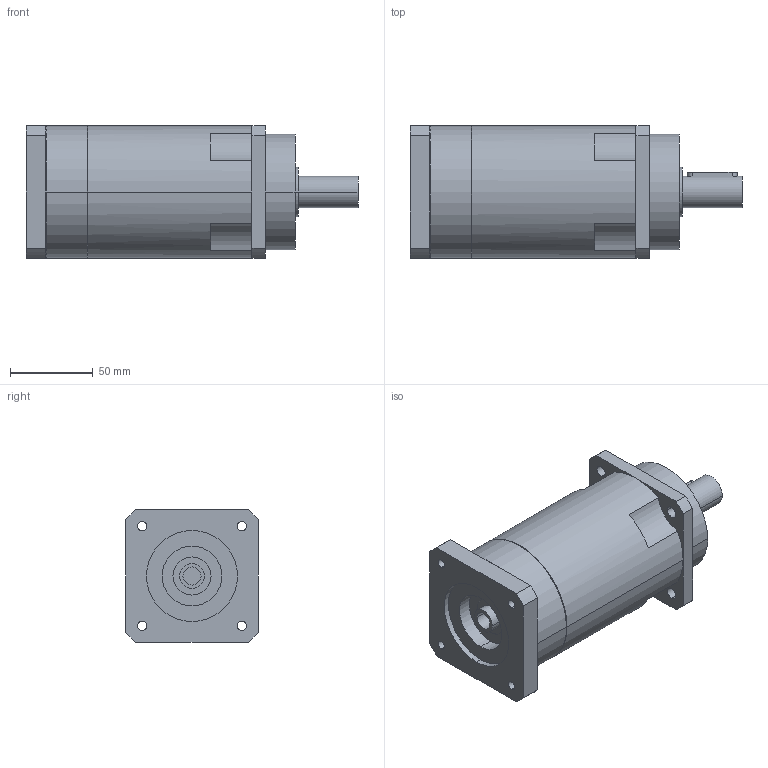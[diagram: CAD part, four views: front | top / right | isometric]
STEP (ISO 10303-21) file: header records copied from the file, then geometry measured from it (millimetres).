
FILE_DESCRIPTION(('CoCreate Modeling STEP Export'),'2;1');
FILE_NAME('GPR100_ig-48-64-80-100-120-144-180-216_19_B5_11_P20.stp','2014-08-26T11:53:05',(''),(''),'CoCreate Modeling STEP processor for AP214 (Solid Model)','CoCreate Modeling 16.00C 25-Feb-2009 (C) Parametric Technology GmbH','');
FILE_SCHEMA(('AUTOMOTIVE_DESIGN { 1 0 10303 214 1 1 1 1 }'));
Length unit declared in the file: millimetre
Products named in the file (2): GPR100_ig-48-64-80-100-120-144-180-216_19_B5_11_P20
Assembly tree (1 placements, depth 2):
  GPR100_ig-48-64-80-100-120-144-180-216_19_B5_11_P20
    GPR100_ig-48-64-80-100-120-144-180-216_19_B5_11_P20
Bounding box: 200.4 x 80 x 80 mm (x, y, z)
Volume: 803267.6 mm3; surface area: 64278.3 mm2
Topology: 1 solids, 1 shells, 105 faces, 289 edges, 195 vertices
Faces by surface type: cylinder 60, plane 39, cone 6
Entity records: 3095 total; most frequent: CARTESIAN_POINT 633, ORIENTED_EDGE 574, DIRECTION 436, EDGE_CURVE 287, VERTEX_POINT 195, AXIS2_PLACEMENT_3D 166, EDGE_LOOP 132, FACE_OUTER_BOUND 105
